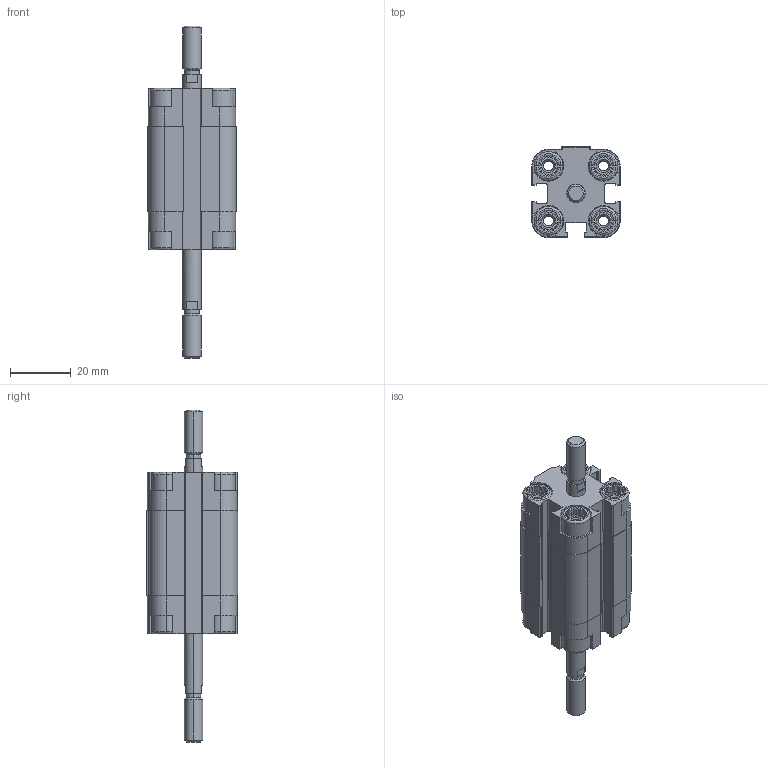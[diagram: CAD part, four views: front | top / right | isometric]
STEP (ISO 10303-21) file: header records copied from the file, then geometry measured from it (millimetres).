
FILE_DESCRIPTION (( 'STEP AP203' ), '1' );
FILE_NAME ('CDVU12-15M-P.STEP', '2020-07-21T14:55:40', ( '' ), ( '' ), 'SwSTEP 2.0', 'SolidWorks 2019', '' );
FILE_SCHEMA (( 'CONFIG_CONTROL_DESIGN' ));
Length unit declared in the file: millimetre
Products named in the file (1): CDVU12-15M-P
Bounding box: 29 x 30 x 109 mm (x, y, z)
Volume: 33931.3 mm3; surface area: 17798 mm2
Topology: 2 solids, 2 shells, 566 faces, 1504 edges, 978 vertices
Faces by surface type: plane 338, cylinder 164, cone 48, torus 16
Entity records: 17771 total; most frequent: CARTESIAN_POINT 3621, ORIENTED_EDGE 3000, DIRECTION 2850, EDGE_CURVE 1500, VERTEX_POINT 978, AXIS2_PLACEMENT_3D 975, VECTOR 900, LINE 900
